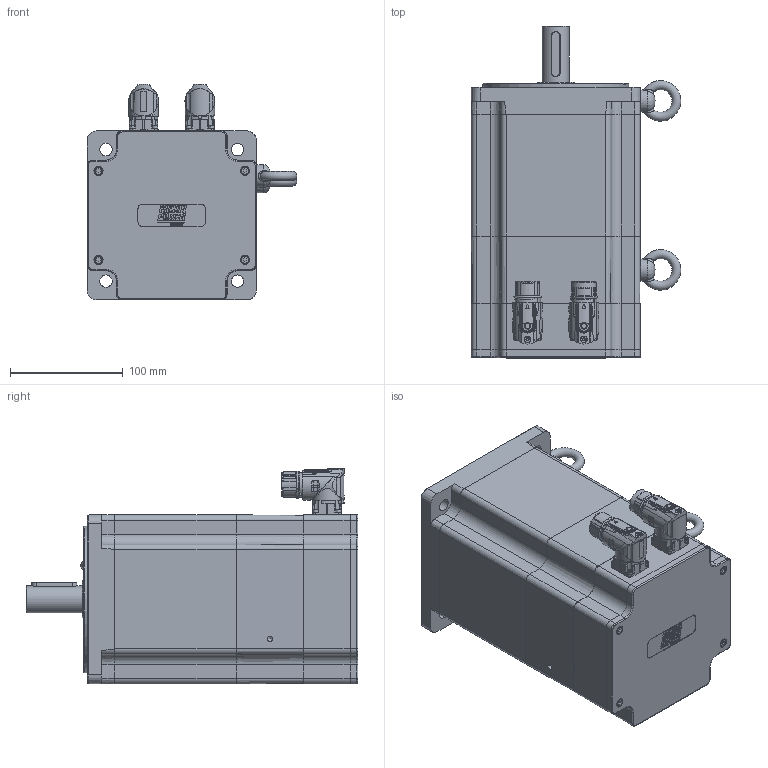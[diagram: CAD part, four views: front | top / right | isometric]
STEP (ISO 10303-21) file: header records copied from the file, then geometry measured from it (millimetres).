
FILE_DESCRIPTION(/* description */ ('Unknown'),/* implementation_level */ '2;1');
FILE_NAME(/* name */ 'TC4-150.6A.XX.X.3.M1.1.X.G2.00.00 Q0B753',/* time_stamp */ '2026-03-06T11:56:29+01:00',/* author */ ('Unknown'),/* organization */ ('Unknown'),/* preprocessor_version */ 'ST-DEVELOPER v19.4',/* originating_system */ 'Solid Edge',/* authorisation */ 'Unknown');
FILE_SCHEMA (('AUTOMOTIVE_DESIGN {1 0 10303 214 3 1 1}'));
Products named in the file (16): Q0B753 6A FRENO M1 VUOTO; 003155002228; 005113000600; 003003200393; 005321000040; 005911000252; 003103040225; 005911000185; 007117000456; Coperchio campana TC4-150; 007117000454; 005911000223; 005119002043; 005308000030; Dispersore TC4 150 6A single cable; 003251040619
Assembly tree (29 placements, depth 2):
  Q0B753 6A FRENO M1 VUOTO
    003155002228
    005113000600
    003003200393
    005321000040  x2
    005911000252  x4
    003103040225
    005911000185  x8
    007117000456
    Coperchio campana TC4-150
    007117000454
    005911000223  x4
    005119002043
    005308000030
    Dispersore TC4 150 6A single cable
    003251040619
Bounding box: 185.98 x 294.5 x 191.51 mm (x, y, z)
Volume: 2068686.8 mm3; surface area: 512899.4 mm2
Topology: 30 solids, 30 shells, 2452 faces, 6123 edges, 3891 vertices
Faces by surface type: plane 1018, cylinder 530, bspline 412, cone 290, torus 152, sphere 50
Full cylindrical faces by diameter (mm): 0.5 x1, 1 x21, 1.2 x17, 1.4 x4, 2 x4, 2.013 x8, 2.459 x2, 2.5 x8, 2.8 x4, 3 x12, 3.2 x1, 3.242 x12, 4 x4, 4.134 x12, 4.5 x10, 4.7 x8, 4.917 x12, 5 x7, 5.5 x10, 5.8 x1, 5.9 x2, 6 x3, 6.647 x2, 6.8 x1, 7 x4, 8 x4, 8.4 x1, 8.5 x4, 9 x4, 10 x5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
Entity records: 90067 total; most frequent: CARTESIAN_POINT 26088, ORIENTED_EDGE 10172, DIRECTION 9141, EDGE_CURVE 5086, AXIS2_PLACEMENT_3D 3533, VERTEX_POINT 3477, FACE_BOUND 2945, EDGE_LOOP 2919
